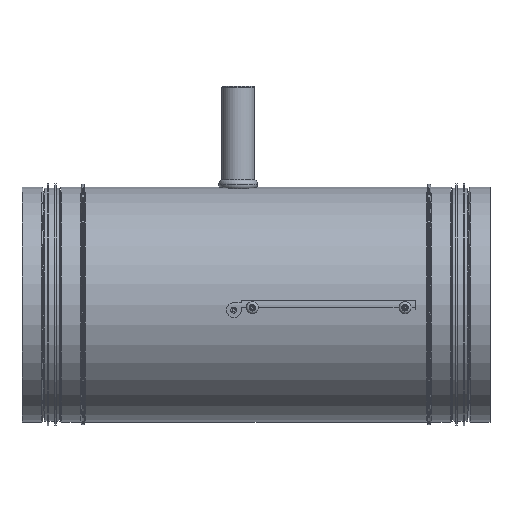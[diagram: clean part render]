
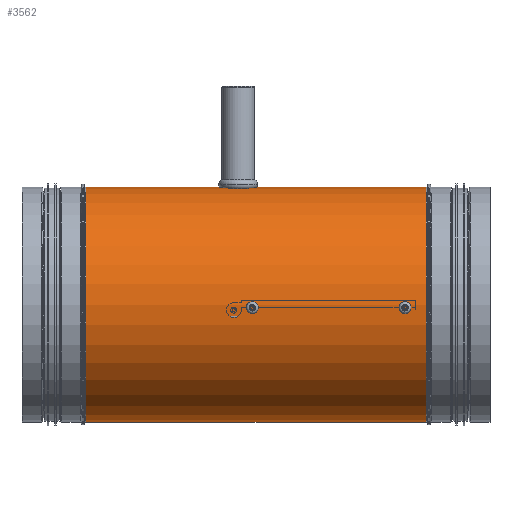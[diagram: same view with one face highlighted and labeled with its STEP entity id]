
A CAD part, left-side view. The second image highlights one B-rep face of the part: STEP entity #3562.
In plain terms, the highlighted cylindrical face has radius 79 mm (diameter 158 mm), a full revolution.
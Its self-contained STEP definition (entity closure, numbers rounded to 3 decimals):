
#104=CYLINDRICAL_SURFACE('',#4049,79.);
#303=FACE_OUTER_BOUND('',#549,.T.);
#549=EDGE_LOOP('',(#2720,#2721,#2722,#2723));
#813=CIRCLE('',#4048,79.);
#814=CIRCLE('',#4050,79.);
#972=LINE('',#5683,#1232);
#1037=LINE('',#5878,#1297);
#1232=VECTOR('',#4420,10.);
#1297=VECTOR('',#4613,10.);
#1492=VERTEX_POINT('',#5676);
#1494=VERTEX_POINT('',#5682);
#1558=VERTEX_POINT('',#5871);
#1560=VERTEX_POINT('',#5877);
#1796=EDGE_CURVE('',#1494,#1492,#972,.T.);
#1893=EDGE_CURVE('',#1558,#1560,#1037,.T.);
#1996=EDGE_CURVE('',#1558,#1494,#813,.T.);
#1997=EDGE_CURVE('',#1560,#1492,#814,.T.);
#2720=ORIENTED_EDGE('',*,*,#1796,.T.);
#2721=ORIENTED_EDGE('',*,*,#1997,.F.);
#2722=ORIENTED_EDGE('',*,*,#1893,.F.);
#2723=ORIENTED_EDGE('',*,*,#1996,.T.);
#3562=ADVANCED_FACE('',(#303),#104,.T.);
#4048=AXIS2_PLACEMENT_3D('',#6081,#4911,#4912);
#4049=AXIS2_PLACEMENT_3D('',#6082,#4913,#4914);
#4050=AXIS2_PLACEMENT_3D('',#6083,#4915,#4916);
#4420=DIRECTION('',(0.,0.,-1.));
#4613=DIRECTION('',(0.,0.,-1.));
#4911=DIRECTION('center_axis',(0.,0.,-1.));
#4912=DIRECTION('ref_axis',(1.,0.,0.));
#4913=DIRECTION('center_axis',(0.,0.,-1.));
#4914=DIRECTION('ref_axis',(-1.,0.,0.));
#4915=DIRECTION('center_axis',(0.,0.,-1.));
#4916=DIRECTION('ref_axis',(1.,0.,0.));
#5676=CARTESIAN_POINT('',(79.,0.014,-114.75));
#5682=CARTESIAN_POINT('',(79.,0.014,114.75));
#5683=CARTESIAN_POINT('',(79.,0.014,0.));
#5871=CARTESIAN_POINT('',(79.,0.,114.75));
#5877=CARTESIAN_POINT('',(79.,0.,-114.75));
#5878=CARTESIAN_POINT('',(79.,0.,114.75));
#6081=CARTESIAN_POINT('Origin',(0.,0.,114.75));
#6082=CARTESIAN_POINT('Origin',(0.,0.,0.));
#6083=CARTESIAN_POINT('Origin',(0.,0.,-114.75));
